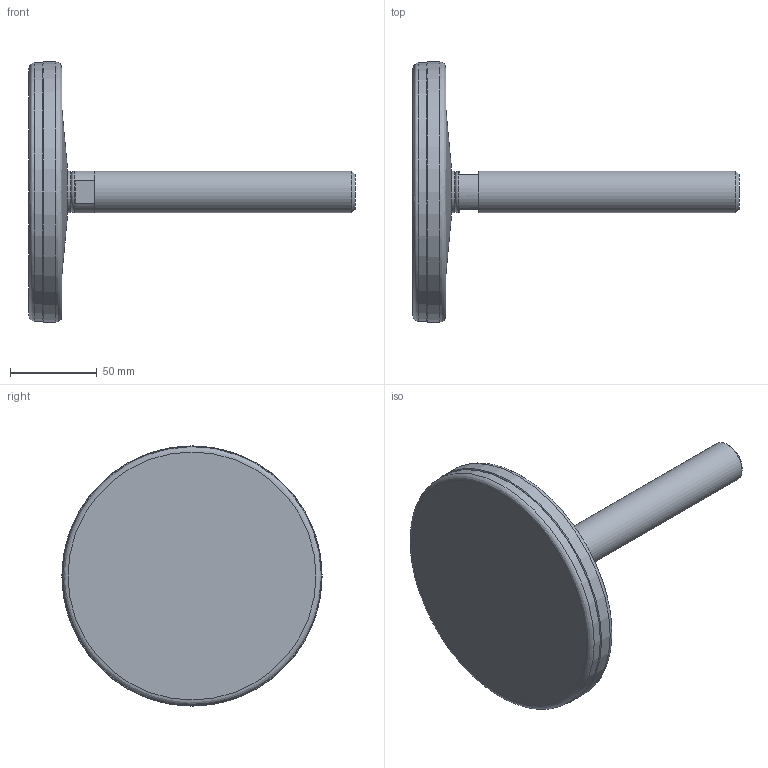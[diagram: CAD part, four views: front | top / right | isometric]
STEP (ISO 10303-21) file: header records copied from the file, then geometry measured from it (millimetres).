
FILE_DESCRIPTION(('STEP AP203'),'2;1');
FILE_NAME('15237-G.stp','2015-05-19T10:28:46',(''),(''),'2008.1.107','THINKDESIGN','');
FILE_SCHEMA(('CONFIG_CONTROL_DESIGN'));
Length unit declared in the file: millimetre
Bounding box: 188 x 150 x 150 mm (x, y, z)
Volume: 362326.8 mm3; surface area: 94387.7 mm2
Topology: 5 solids, 5 shells, 37 faces, 94 edges, 71 vertices
Faces by surface type: plane 17, bspline 11, cylinder 9
Full cylindrical faces by diameter (mm): 12.5 x2, 14.7 x1, 24 x3, 145.5 x1, 149 x1, 150 x1
Entity records: 2572 total; most frequent: CARTESIAN_POINT 1429, DIRECTION 216, ORIENTED_EDGE 186, AXIS2_PLACEMENT_3D 96, EDGE_CURVE 93, CIRCLE 70, VERTEX_POINT 69, EDGE_LOOP 46
